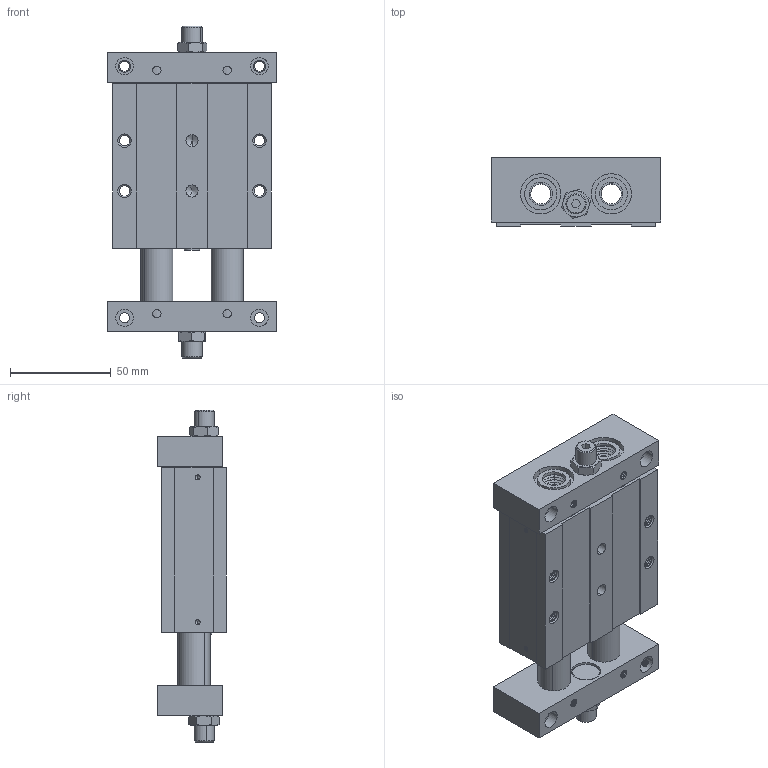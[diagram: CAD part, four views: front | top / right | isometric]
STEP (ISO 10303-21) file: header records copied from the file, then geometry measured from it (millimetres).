
FILE_DESCRIPTION (( 'STEP AP203' ), '1' );
FILE_NAME ('PS25.0025.STEP', '2005-11-22T16:51:32', ( 'Vesta Automation srl' ), ( 'Vesta Automation srl' ), 'SwSTEP 2.0', 'SolidWorks 2005187', '' );
FILE_SCHEMA (( 'CONFIG_CONTROL_DESIGN' ));
Length unit declared in the file: millimetre
Products named in the file (5): PS25.0025; BODY-PS25_STROKE 0025; PISTON ROD-PS25_STROKE 0025; PLATE DX-SP25; PLATE SX-SP25
Assembly tree (5 placements, depth 2):
  PS25.0025
    PLATE DX-SP25
    PISTON ROD-PS25_STROKE 0025  x2
    PLATE SX-SP25
    BODY-PS25_STROKE 0025
Bounding box: 84 x 34 x 165 mm (x, y, z)
Volume: 231362.5 mm3; surface area: 91376.9 mm2
Topology: 5 solids, 9 shells, 1398 faces, 3125 edges, 1767 vertices
Faces by surface type: cone 976, plane 210, cylinder 196, torus 16
Entity records: 37853 total; most frequent: CARTESIAN_POINT 6977, DIRECTION 6928, ORIENTED_EDGE 5974, EDGE_CURVE 2987, AXIS2_PLACEMENT_3D 2714, VERTEX_POINT 1699, VECTOR 1500, LINE 1500
